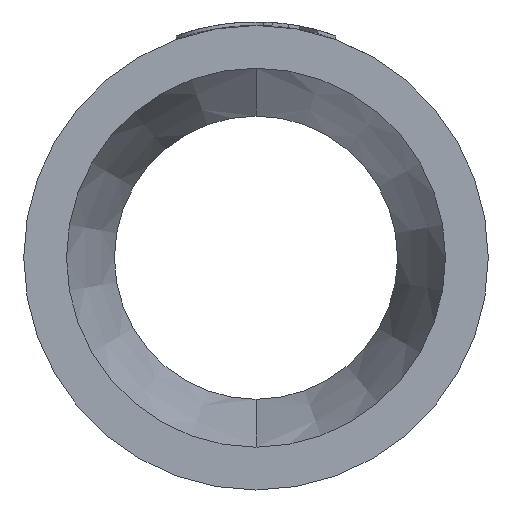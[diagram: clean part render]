
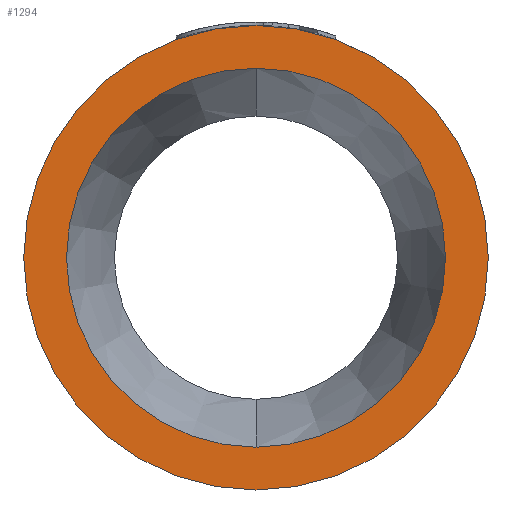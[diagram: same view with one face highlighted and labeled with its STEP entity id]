
A CAD part, left-side view. The second image highlights one B-rep face of the part: STEP entity #1294.
In plain terms, the highlighted planar face has unit normal (-1, 0, 0).
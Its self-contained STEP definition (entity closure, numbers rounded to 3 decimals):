
#68 = EDGE_LOOP ( 'NONE', ( #441, #490 ) ) ;
#117 = CARTESIAN_POINT ( 'NONE',  ( 0., 0., 0. ) ) ;
#187 = DIRECTION ( 'NONE',  ( -1., 0., 0. ) ) ;
#386 = DIRECTION ( 'NONE',  ( 0., 0., 1. ) ) ;
#417 = EDGE_LOOP ( 'NONE', ( #1201, #1251 ) ) ;
#441 = ORIENTED_EDGE ( 'NONE', *, *, #2525, .T. ) ;
#490 = ORIENTED_EDGE ( 'NONE', *, *, #2826, .T. ) ;
#504 = CARTESIAN_POINT ( 'NONE',  ( 0., 0., -25.7 ) ) ;
#857 = DIRECTION ( 'NONE',  ( 1., 0., 0. ) ) ;
#974 = AXIS2_PLACEMENT_3D ( 'NONE', #2413, #857, #2675 ) ;
#1072 = DIRECTION ( 'NONE',  ( -1., 0., 0. ) ) ;
#1100 = CIRCLE ( 'NONE', #1220, 25.7 ) ;
#1113 = PLANE ( 'NONE',  #974 ) ;
#1136 = VERTEX_POINT ( 'NONE', #504 ) ;
#1144 = CARTESIAN_POINT ( 'NONE',  ( 0., 0., 25.7 ) ) ;
#1201 = ORIENTED_EDGE ( 'NONE', *, *, #1272, .F. ) ;
#1220 = AXIS2_PLACEMENT_3D ( 'NONE', #117, #1936, #386 ) ;
#1251 = ORIENTED_EDGE ( 'NONE', *, *, #2707, .F. ) ;
#1272 = EDGE_CURVE ( 'NONE', #2670, #1136, #1280, .T. ) ;
#1280 = CIRCLE ( 'NONE', #2263, 25.7 ) ;
#1294 = ADVANCED_FACE ( 'NONE', ( #2346, #2260 ), #1113, .F. ) ;
#1358 = DIRECTION ( 'NONE',  ( -1., 0., 0. ) ) ;
#1622 = CIRCLE ( 'NONE', #1791, 31.5 ) ;
#1750 = CARTESIAN_POINT ( 'NONE',  ( 0., 0., 0. ) ) ;
#1791 = AXIS2_PLACEMENT_3D ( 'NONE', #2616, #1072, #2862 ) ;
#1936 = DIRECTION ( 'NONE',  ( -1., 0., 0. ) ) ;
#2014 = DIRECTION ( 'NONE',  ( 0., 0., 1. ) ) ;
#2037 = CIRCLE ( 'NONE', #2544, 31.5 ) ;
#2260 = FACE_OUTER_BOUND ( 'NONE', #68, .T. ) ;
#2263 = AXIS2_PLACEMENT_3D ( 'NONE', #2900, #1358, #3147 ) ;
#2329 = CARTESIAN_POINT ( 'NONE',  ( 0., 0., -31.5 ) ) ;
#2346 = FACE_BOUND ( 'NONE', #417, .T. ) ;
#2413 = CARTESIAN_POINT ( 'NONE',  ( 0., 25.7, 0. ) ) ;
#2525 = EDGE_CURVE ( 'NONE', #2945, #2948, #1622, .T. ) ;
#2544 = AXIS2_PLACEMENT_3D ( 'NONE', #1750, #187, #2014 ) ;
#2616 = CARTESIAN_POINT ( 'NONE',  ( 0., 0., 0. ) ) ;
#2670 = VERTEX_POINT ( 'NONE', #1144 ) ;
#2675 = DIRECTION ( 'NONE',  ( 0., 0., -1. ) ) ;
#2707 = EDGE_CURVE ( 'NONE', #1136, #2670, #1100, .T. ) ;
#2826 = EDGE_CURVE ( 'NONE', #2948, #2945, #2037, .T. ) ;
#2862 = DIRECTION ( 'NONE',  ( 0., 0., 1. ) ) ;
#2900 = CARTESIAN_POINT ( 'NONE',  ( 0., 0., 0. ) ) ;
#2945 = VERTEX_POINT ( 'NONE', #3292 ) ;
#2948 = VERTEX_POINT ( 'NONE', #2329 ) ;
#3147 = DIRECTION ( 'NONE',  ( 0., 0., 1. ) ) ;
#3292 = CARTESIAN_POINT ( 'NONE',  ( 0., 0., 31.5 ) ) ;
